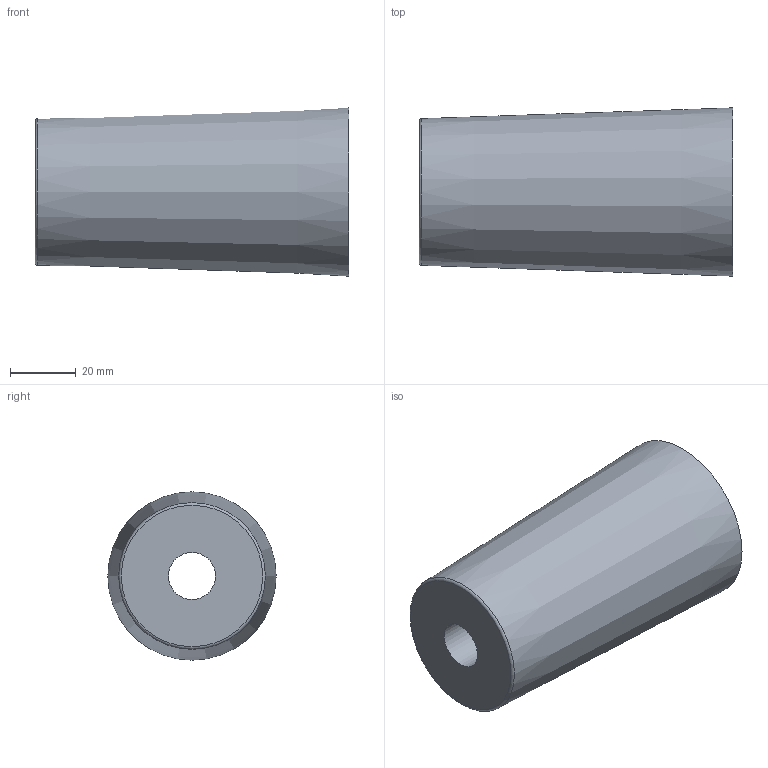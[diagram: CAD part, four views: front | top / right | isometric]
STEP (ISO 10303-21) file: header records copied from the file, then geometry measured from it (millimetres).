
FILE_DESCRIPTION(/* description */ (''),/* implementation_level */ '2;1');
FILE_NAME(/* name */ 'D:\VDV Techniek\Documents\Inventor\_ISP_Products\Safety Gate nagetekend model\UBlock_Only.stp',/* time_stamp */ '2017-06-06T22:30:40+02:00',/* author */ ('VDV Techniek'),/* organization */ (''),/* preprocessor_version */ 'ST-DEVELOPER v15.2',/* originating_system */ 'Autodesk Inventor 2014',/* authorisation */ '');
FILE_SCHEMA (('AUTOMOTIVE_DESIGN { 1 0 10303 214 3 1 1 }'));
Length unit declared in the file: millimetre
Products named in the file (1): UBlock_Only
Bounding box: 95.25 x 51.1 x 51.1 mm (x, y, z)
Volume: 143645.1 mm3; surface area: 22972.6 mm2
Topology: 1 solids, 1 shells, 7 faces, 11 edges, 7 vertices
Faces by surface type: plane 3, cylinder 2, torus 1, cone 1
Full cylindrical faces by diameter (mm): 14.3 x1, 28.6 x1
Entity records: 172 total; most frequent: DIRECTION 30, CARTESIAN_POINT 22, AXIS2_PLACEMENT_3D 15, EDGE_LOOP 14, ORIENTED_EDGE 14, FACE_BOUND 10, CIRCLE 7, VERTEX_POINT 7
